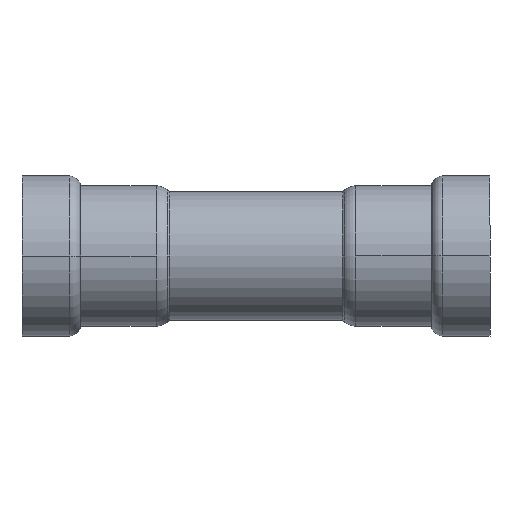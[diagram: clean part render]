
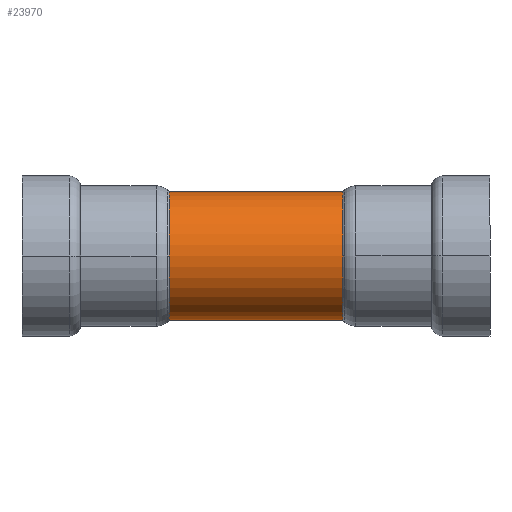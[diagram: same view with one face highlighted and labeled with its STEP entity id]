
A CAD part, front view. The second image highlights one B-rep face of the part: STEP entity #23970.
In plain terms, the highlighted cylindrical face has radius 22.5 mm (diameter 45 mm), a partial arc.
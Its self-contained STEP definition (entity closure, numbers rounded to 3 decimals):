
#23480=CARTESIAN_POINT('',(109.912,52.567,0.));
#23490=DIRECTION('',(-1.,0.,0.));
#23500=DIRECTION('',(0.,1.,0.));
#23510=AXIS2_PLACEMENT_3D('',#23480,#23490,#23500);
#23520=CYLINDRICAL_SURFACE('',#23510,22.5);
#23530=CARTESIAN_POINT('',(167.221,52.567,
0.));
#23540=DIRECTION('',(-1.,0.,0.));
#23550=DIRECTION('',(0.,1.,0.));
#23560=AXIS2_PLACEMENT_3D('',#23530,#23540,#23550);
#23570=CIRCLE('',#23560,22.5);
#23580=CARTESIAN_POINT('',(167.221,75.067,0.));
#23590=VERTEX_POINT('',#23580);
#23600=CARTESIAN_POINT('',(167.221,52.567,-22.5));
#23610=VERTEX_POINT('',#23600);
#23620=EDGE_CURVE('',#23590,#23610,#23570,.T.);
#23630=ORIENTED_EDGE('',*,*,#23620,.T.);
#23640=CARTESIAN_POINT('',(109.912,75.067,0.));
#23650=DIRECTION('',(-1.,0.,0.));
#23660=VECTOR('',#23650,1.);
#23670=LINE('',#23640,#23660);
#23680=CARTESIAN_POINT('',(106.602,75.067,0.));
#23690=VERTEX_POINT('',#23680);
#23700=EDGE_CURVE('',#23590,#23690,#23670,.T.);
#23710=ORIENTED_EDGE('',*,*,#23700,.F.);
#23720=CARTESIAN_POINT('',(106.602,52.567,
0.));
#23730=DIRECTION('',(-1.,0.,0.));
#23740=DIRECTION('',(0.,1.,0.));
#23750=AXIS2_PLACEMENT_3D('',#23720,#23730,#23740);
#23760=CIRCLE('',#23750,22.5);
#23770=CARTESIAN_POINT('',(106.602,52.567,-22.5));
#23780=VERTEX_POINT('',#23770);
#23790=EDGE_CURVE('',#23690,#23780,#23760,.T.);
#23800=ORIENTED_EDGE('',*,*,#23790,.F.);
#23810=CARTESIAN_POINT('',(106.602,30.067,
0.));
#23820=VERTEX_POINT('',#23810);
#23830=EDGE_CURVE('',#23780,#23820,#23760,.T.);
#23840=ORIENTED_EDGE('',*,*,#23830,.F.);
#23850=CARTESIAN_POINT('',(109.912,30.067,0.));
#23860=DIRECTION('',(-1.,0.,0.));
#23870=VECTOR('',#23860,1.);
#23880=LINE('',#23850,#23870);
#23890=CARTESIAN_POINT('',(167.221,30.067,
0.));
#23900=VERTEX_POINT('',#23890);
#23910=EDGE_CURVE('',#23900,#23820,#23880,.T.);
#23920=ORIENTED_EDGE('',*,*,#23910,.T.);
#23930=EDGE_CURVE('',#23610,#23900,#23570,.T.);
#23940=ORIENTED_EDGE('',*,*,#23930,.T.);
#23950=EDGE_LOOP('',(#23940,#23920,#23840,#23800,#23710,#23630));
#23960=FACE_OUTER_BOUND('',#23950,.T.);
#23970=ADVANCED_FACE('',(#23960),#23520,.T.);
